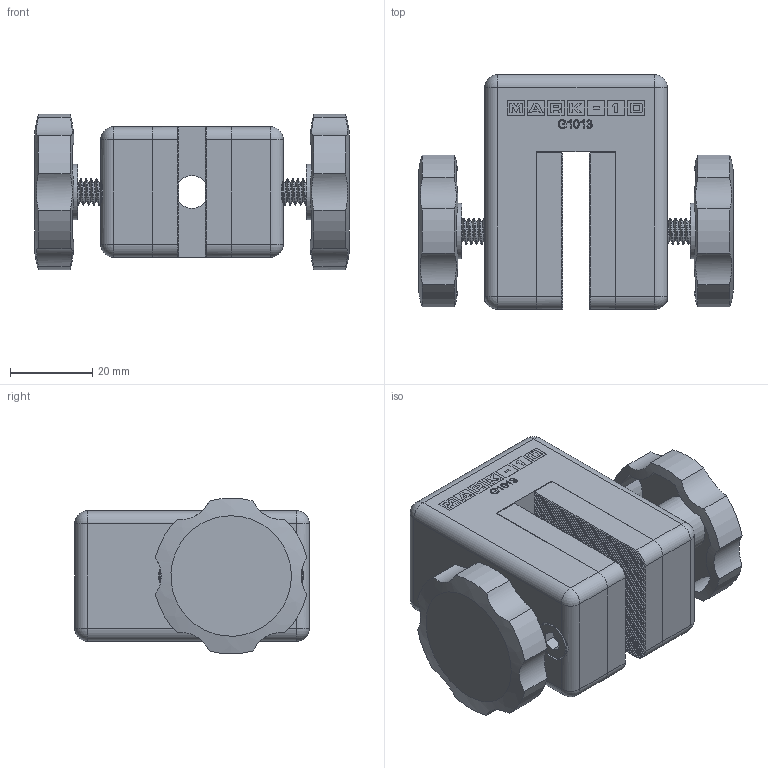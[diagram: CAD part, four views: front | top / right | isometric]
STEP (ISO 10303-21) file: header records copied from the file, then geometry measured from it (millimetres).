
FILE_DESCRIPTION((''),'2;1');
FILE_NAME('F:\CAD files\Itr\3D MARKETING MODELS\GRIPS\G1013\G1013.stp','2017-04-19T12:54:08',('mlampen'),(''),'Autodesk Inventor 2010','Autodesk Inventor 2010','');
FILE_SCHEMA(('AUTOMOTIVE_DESIGN { 1 0 10303 214 1 1 1 1 }'));
Length unit declared in the file: inch
Products named in the file (6): Assembly1; Part2; Part4; Part6; Part8; Part10
Assembly tree (5 placements, depth 2):
  Assembly1
    Part2
    Part4
    Part6
    Part8
    Part10
Bounding box: 76.56 x 57.15 x 37.97 mm (x, y, z)
Volume: 79967.8 mm3; surface area: 31793.9 mm2
Topology: 5 solids, 7 shells, 1841 faces, 4998 edges, 3227 vertices
Faces by surface type: plane 1661, cylinder 113, bspline 31, cone 28, sphere 8
Full cylindrical faces by diameter (mm): 3.505 x1, 3.81 x1, 6.35 x2, 7.938 x1, 9.525 x4, 9.652 x2, 9.906 x2, 13.494 x2
Entity records: 62730 total; most frequent: CARTESIAN_POINT 17377, ORIENTED_EDGE 9874, DIRECTION 8488, EDGE_CURVE 4937, VECTOR 4368, LINE 4368, VERTEX_POINT 3207, AXIS2_PLACEMENT_3D 2060
